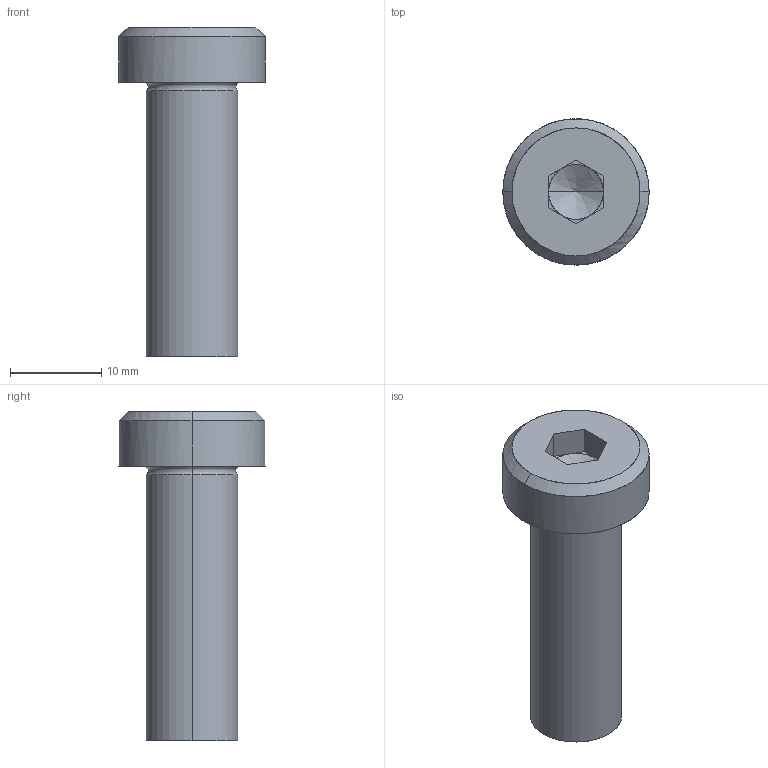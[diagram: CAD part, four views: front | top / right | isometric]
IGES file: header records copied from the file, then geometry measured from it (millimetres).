
Global section: file name: E:\UnigraphicsGraphicData\MISUMI_PRESS-PARTS\IGES\3d_sbtcn10-30_05125_r00.igs; native system: NX V5.0; preprocessor: UGS NX IGES V5.0; author: MISUMI; date: 20110105.162452; units: millimetre
Bounding box: 16 x 16 x 36 mm (x, y, z)
Surface area: 2001.2 mm2 (no closed solid volume)
Topology: 0 solids, 0 shells, 34 faces, 180 edges, 176 vertices
Faces by surface type: bspline 34
